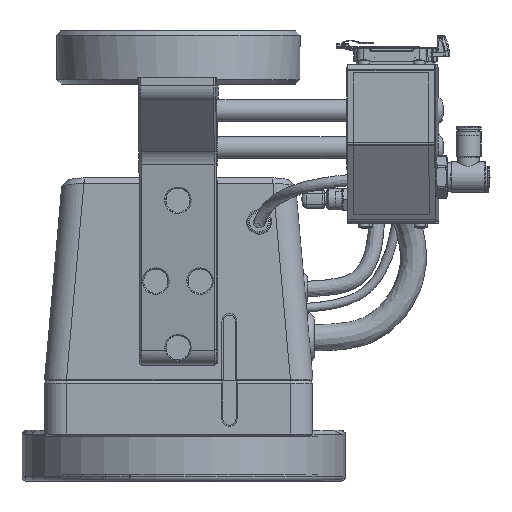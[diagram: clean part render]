
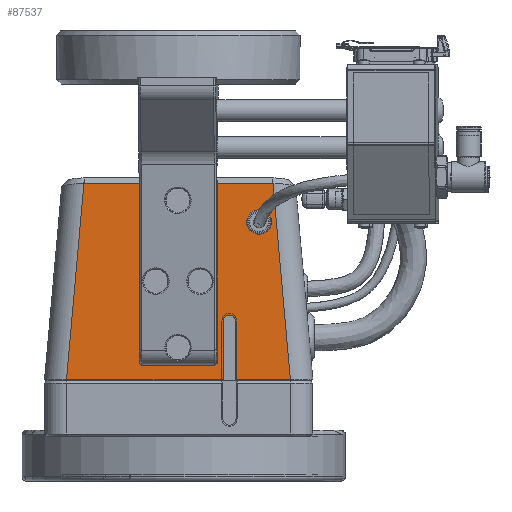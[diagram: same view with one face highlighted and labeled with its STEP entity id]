
A CAD part, left-side view. The second image highlights one B-rep face of the part: STEP entity #87537.
In plain terms, the highlighted planar face has unit normal (-1, 0.012, 0).
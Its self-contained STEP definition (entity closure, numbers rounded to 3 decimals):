
#2901=LINE('',#120394,#10722);
#2909=LINE('',#120410,#10730);
#2926=LINE('',#120485,#10747);
#2952=LINE('',#120631,#10773);
#2956=LINE('',#120691,#10777);
#2968=LINE('',#120818,#10789);
#2969=LINE('',#120825,#10790);
#10722=VECTOR('',#98452,10.);
#10730=VECTOR('',#98462,10.);
#10747=VECTOR('',#98491,10.);
#10773=VECTOR('',#98531,10.);
#10777=VECTOR('',#98539,10.);
#10789=VECTOR('',#98561,10.);
#10790=VECTOR('',#98562,10.);
#18552=PLANE('',#91907);
#20735=FACE_OUTER_BOUND('',#24892,.T.);
#24892=EDGE_LOOP('',(#58598,#58599,#58600,#58601,#58602,#58603,#58604,#58605,
#58606,#58607));
#29338=B_SPLINE_CURVE_WITH_KNOTS('',3,(#120820,#120821,#120822,#120823),
 .UNSPECIFIED.,.F.,.F.,(4,4),(0.562,0.59),
 .UNSPECIFIED.);
#29339=B_SPLINE_CURVE_WITH_KNOTS('',3,(#120826,#120827,#120828,#120829),
 .UNSPECIFIED.,.F.,.F.,(4,4),(-0.59,-0.562),
 .UNSPECIFIED.);
#31939=CIRCLE('',#91908,2.7);
#34472=VERTEX_POINT('',#120391);
#34473=VERTEX_POINT('',#120393);
#34476=VERTEX_POINT('',#120401);
#34480=VERTEX_POINT('',#120408);
#34502=VERTEX_POINT('',#120484);
#34524=VERTEX_POINT('',#120630);
#34530=VERTEX_POINT('',#120682);
#34531=VERTEX_POINT('',#120690);
#34536=VERTEX_POINT('',#120819);
#34537=VERTEX_POINT('',#120824);
#44315=EDGE_CURVE('',#34473,#34472,#2901,.T.);
#44323=EDGE_CURVE('',#34476,#34480,#2909,.T.);
#44349=EDGE_CURVE('',#34473,#34502,#2926,.T.);
#44379=EDGE_CURVE('',#34502,#34524,#2952,.T.);
#44388=EDGE_CURVE('',#34530,#34531,#2956,.T.);
#44403=EDGE_CURVE('',#34472,#34476,#31939,.T.);
#44404=EDGE_CURVE('',#34531,#34480,#2968,.T.);
#44405=EDGE_CURVE('',#34536,#34530,#29338,.T.);
#44406=EDGE_CURVE('',#34537,#34536,#2969,.T.);
#44407=EDGE_CURVE('',#34524,#34537,#29339,.T.);
#58598=ORIENTED_EDGE('',*,*,#44403,.T.);
#58599=ORIENTED_EDGE('',*,*,#44323,.T.);
#58600=ORIENTED_EDGE('',*,*,#44404,.F.);
#58601=ORIENTED_EDGE('',*,*,#44388,.F.);
#58602=ORIENTED_EDGE('',*,*,#44405,.F.);
#58603=ORIENTED_EDGE('',*,*,#44406,.F.);
#58604=ORIENTED_EDGE('',*,*,#44407,.F.);
#58605=ORIENTED_EDGE('',*,*,#44379,.F.);
#58606=ORIENTED_EDGE('',*,*,#44349,.F.);
#58607=ORIENTED_EDGE('',*,*,#44315,.T.);
#87537=ADVANCED_FACE('',(#20735),#18552,.T.);
#91907=AXIS2_PLACEMENT_3D('',#120816,#98557,#98558);
#91908=AXIS2_PLACEMENT_3D('',#120817,#98559,#98560);
#98452=DIRECTION('',(0.,0.,1.));
#98462=DIRECTION('',(0.,0.,-1.));
#98491=DIRECTION('',(0.012,1.,0.));
#98531=DIRECTION('',(-0.001,-0.089,0.996));
#98539=DIRECTION('',(-0.001,-0.089,-0.996));
#98557=DIRECTION('center_axis',(-1.,0.012,0.));
#98558=DIRECTION('ref_axis',(-0.012,-1.,0.));
#98559=DIRECTION('center_axis',(1.,-0.012,0.));
#98560=DIRECTION('ref_axis',(-0.012,-1.,0.));
#98561=DIRECTION('',(0.012,1.,0.));
#98562=DIRECTION('',(-0.012,-1.,0.));
#120391=CARTESIAN_POINT('',(-11.669,43.258,51.669));
#120393=CARTESIAN_POINT('',(-11.669,43.258,25.5));
#120394=CARTESIAN_POINT('',(-11.669,43.258,25.));
#120401=CARTESIAN_POINT('',(-11.732,37.899,51.669));
#120408=CARTESIAN_POINT('',(-11.732,37.899,25.5));
#120410=CARTESIAN_POINT('',(-11.732,37.899,25.));
#120484=CARTESIAN_POINT('',(-10.838,114.12,25.5));
#120485=CARTESIAN_POINT('',(-11.109,91.075,25.5));
#120630=CARTESIAN_POINT('',(-10.931,106.248,114.027));
#120631=CARTESIAN_POINT('',(-10.838,114.192,24.685));
#120682=CARTESIAN_POINT('',(-11.931,20.905,114.027));
#120690=CARTESIAN_POINT('',(-12.023,13.034,25.5));
#120691=CARTESIAN_POINT('',(-12.019,13.371,29.292));
#120816=CARTESIAN_POINT('Origin',(-10.786,118.573,25.));
#120817=CARTESIAN_POINT('Origin',(-11.7,40.578,52.));
#120818=CARTESIAN_POINT('',(-11.109,91.075,25.5));
#120819=CARTESIAN_POINT('',(-11.928,21.172,114.027));
#120820=CARTESIAN_POINT('Ctrl Pts',(-11.928,21.172,
114.027));
#120821=CARTESIAN_POINT('Ctrl Pts',(-11.929,21.083,
114.027));
#120822=CARTESIAN_POINT('Ctrl Pts',(-11.93,20.994,
114.027));
#120823=CARTESIAN_POINT('Ctrl Pts',(-11.931,20.905,
114.027));
#120824=CARTESIAN_POINT('',(-10.934,105.982,114.027));
#120825=CARTESIAN_POINT('',(-11.109,91.075,114.027));
#120826=CARTESIAN_POINT('Ctrl Pts',(-10.931,106.248,114.027));
#120827=CARTESIAN_POINT('Ctrl Pts',(-10.932,106.159,114.027));
#120828=CARTESIAN_POINT('Ctrl Pts',(-10.933,106.071,
114.027));
#120829=CARTESIAN_POINT('Ctrl Pts',(-10.934,105.982,
114.027));
